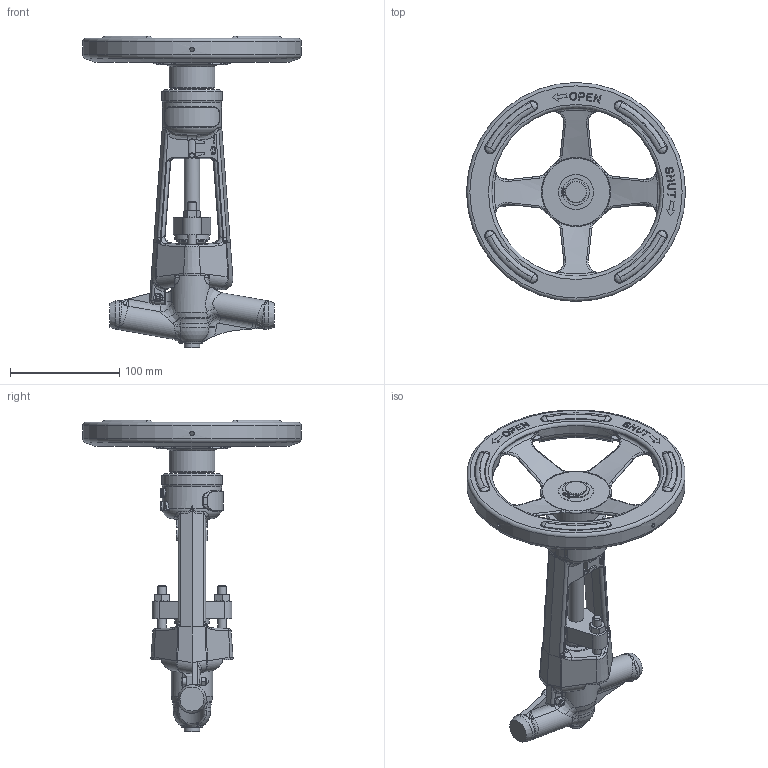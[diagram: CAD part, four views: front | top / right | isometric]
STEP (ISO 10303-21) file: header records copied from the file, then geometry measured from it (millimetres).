
FILE_DESCRIPTION(/* description */ (''),/* implementation_level */ '2;1');
FILE_NAME(/* name */ 'UV526_DN10_15_RK.stp',/* time_stamp */ '2016-06-08T14:19:39+02:00',/* author */ (''),/* organization */ (''),/* preprocessor_version */ 'ST-DEVELOPER v15',/* originating_system */ 'SIEMENS PLM Software NX 8.5',/* authorisation */ '');
FILE_SCHEMA (('AP203_CONFIGURATION_CONTROLLED_3D_DESIGN_OF_MECHANICAL_PARTS_AND_ASSEMBLIES_MIM_LF { 1 0 10303 403 2 1 2}'));
Length unit declared in the file: millimetre
Products named in the file (1): ploc2F4C05CFg488
Bounding box: 200 x 200 x 285 mm (x, y, z)
Volume: 550125.4 mm3; surface area: 162823.3 mm2
Topology: 1 solids, 3 shells, 910 faces, 2333 edges, 1447 vertices
Faces by surface type: plane 286, bspline 196, cylinder 189, cone 83, torus 82, extrusion 68, sphere 6
Full cylindrical faces by diameter (mm): 2 x2, 4 x4, 5 x4, 5.1 x1, 6 x1, 6.985 x2, 7.5 x1, 8 x4, 8.1 x1, 9 x2, 14 x3, 16 x1, 19 x1, 20 x2, 22 x1, 24 x1, 29 x1, 32 x2, 32.2 x1, 36 x2, 42 x1, 54 x1, 55 x1, 154 x1, 158 x1, 196 x1, 200 x1
Entity records: 34897 total; most frequent: CARTESIAN_POINT 15182, ORIENTED_EDGE 4388, DIRECTION 3500, EDGE_CURVE 2194, VERTEX_POINT 1411, AXIS2_PLACEMENT_3D 1400, EDGE_LOOP 1069, ADVANCED_FACE 909
